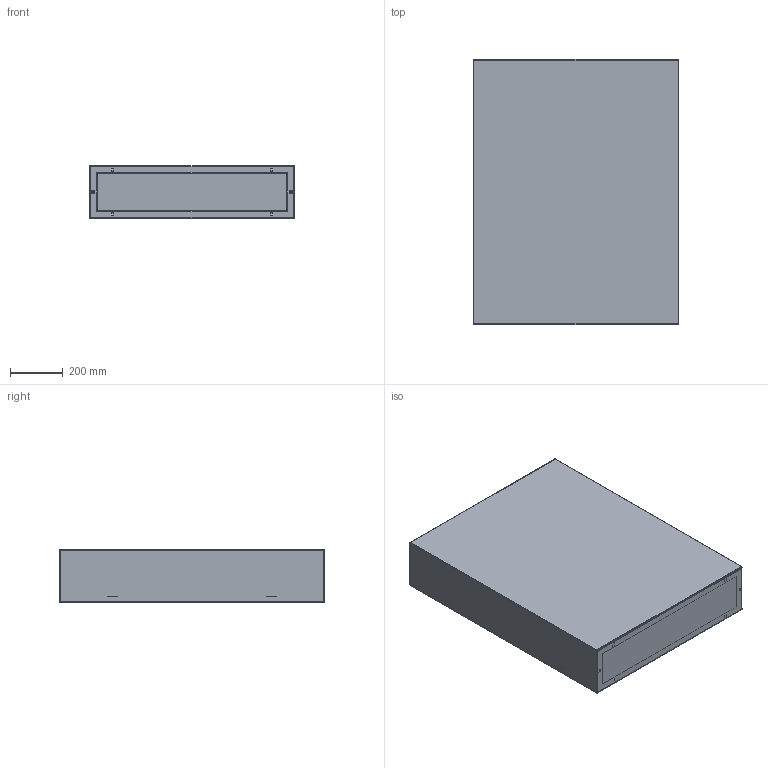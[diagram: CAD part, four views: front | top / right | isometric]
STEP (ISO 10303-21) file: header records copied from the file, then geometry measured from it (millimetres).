
FILE_DESCRIPTION (( 'STEP AP203' ), '1' );
FILE_NAME ('EUZE_1000X0800X0200 STA-ENUX.STEP', '2015-02-20T16:19:10', ( 'Admin' ), ( '' ), 'SwSTEP 2.0', 'SolidWorks 2014', '' );
FILE_SCHEMA (( 'CONFIG_CONTROL_DESIGN' ));
Length unit declared in the file: millimetre
Products named in the file (1): EUZE_1000X0800X0200 STA-ENUX
Bounding box: 778 x 1005 x 200 mm (x, y, z)
Volume: 3897140.8 mm3; surface area: 3740389.4 mm2
Topology: 1 solids, 1 shells, 229 faces, 568 edges, 348 vertices
Faces by surface type: plane 141, cylinder 68, sphere 16, cone 4
Entity records: 6705 total; most frequent: CARTESIAN_POINT 1148, DIRECTION 1138, ORIENTED_EDGE 1104, EDGE_CURVE 552, LINE 414, VECTOR 414, AXIS2_PLACEMENT_3D 362, VERTEX_POINT 348
